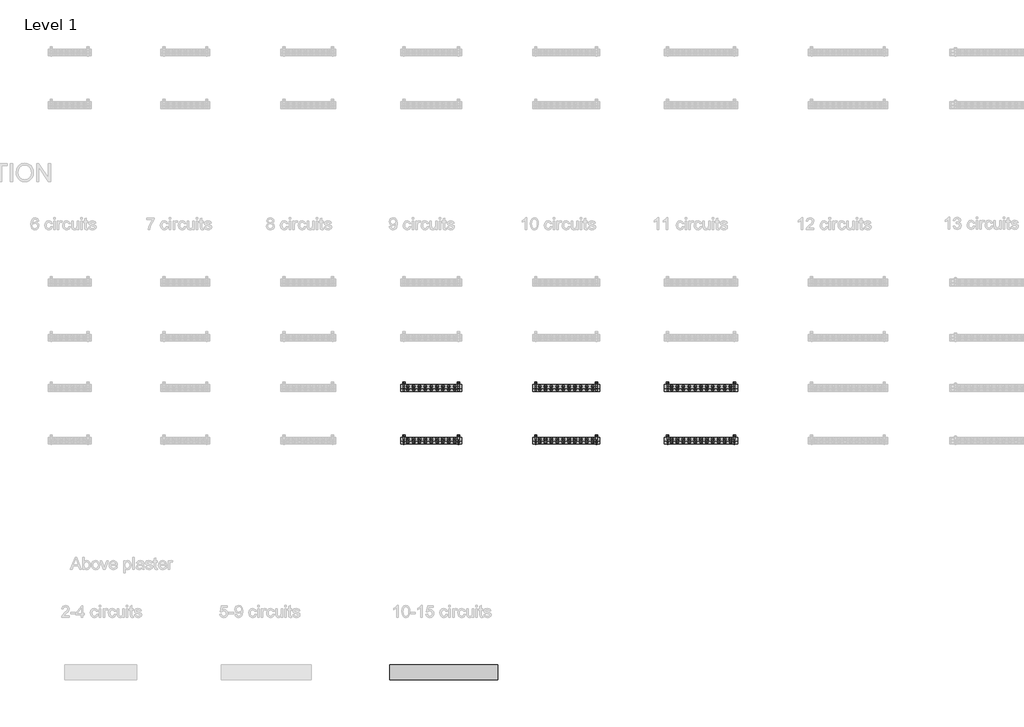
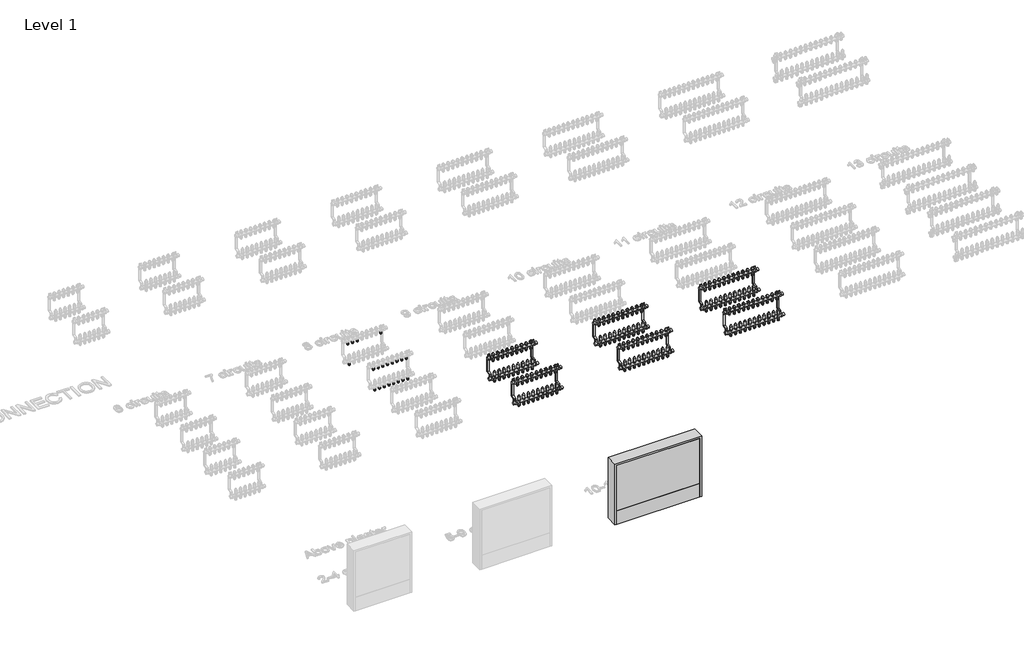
# One storey, part 3 of 23: 140 pipe fittings, 7 valves.
"""IFC4 building model written with IfcOpenShell, lengths in millimetres."""

from ifc_helpers import new_model, si_unit, origin, place, context, project, spatial, transform, mapped, element, save
from components import pipe_fitting_03c6499f, valve_f094e97b, valve_0359cbb0, valve_3285f891, valve_bdae45cc, valve_7e3f3941, valve_882e19a6, valve_5647343c, valve_f26d3ca9, valve_25ad0012, valve_d922645e

model = new_model("IFC4")

# Units and contexts
model_context = context("Model", 3, world=origin())
ifc_project = project(units=[si_unit("LENGTHUNIT", "METRE", prefix="MILLI")], contexts=[model_context])

# Site, building, storey
site = spatial("IfcSite", under=ifc_project)
building = spatial("IfcBuilding", under=site)
storey = spatial("IfcBuildingStorey", under=building, Name="Level 1", Elevation=0.0)

# Pipe fittings
placement = place(None, origin())
pipe_fitting_shape = pipe_fitting_03c6499f(model_context)
element("IfcPipeFitting", 1, ObjectType="Euroconus screwing for multilayer pipes - Manifold FT : Euroconus screwing for multilayer pipes - Manifold FT", at=placement, inside=storey, context=model_context, shape_type="MappedRepresentation", body=[
    mapped(pipe_fitting_shape, transform((7330.6939719, -1139.6959314, 272.88733), x_axis=(0.0, 0.0, -1.0), y_axis=(0.0, 1.0000000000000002, 0.0), z_axis=(1.0000000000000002, 0.0, 0.0))),
])
element("IfcPipeFitting", 2, ObjectType="Euroconus screwing for multilayer pipes - Manifold FT : Euroconus screwing for multilayer pipes - Manifold FT", at=placement, inside=storey, context=model_context, shape_type="MappedRepresentation", body=[
    mapped(pipe_fitting_shape, transform((7281.836829, -1139.6959314, 272.88733), x_axis=(0.0, 0.0, -1.0), y_axis=(0.0, 1.0000000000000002, 0.0), z_axis=(1.0000000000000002, 0.0, 0.0))),
])
element("IfcPipeFitting", 3, ObjectType="Euroconus screwing for multilayer pipes - Manifold FT : Euroconus screwing for multilayer pipes - Manifold FT", at=placement, inside=storey, context=model_context, shape_type="MappedRepresentation", body=[
    mapped(pipe_fitting_shape, transform((7574.9796862, -1139.6959314, 272.88733), x_axis=(0.0, 0.0, -1.0), y_axis=(0.0, 1.0000000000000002, 0.0), z_axis=(1.0000000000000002, 0.0, 0.0))),
])
element("IfcPipeFitting", 4, ObjectType="Euroconus screwing for multilayer pipes - Manifold FT : Euroconus screwing for multilayer pipes - Manifold FT", at=placement, inside=storey, context=model_context, shape_type="MappedRepresentation", body=[
    mapped(pipe_fitting_shape, transform((7232.9796862, -1164.6959314, 62.88733), x_axis=(0.0, 0.0, -1.0), y_axis=(0.0, 1.0000000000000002, 0.0), z_axis=(1.0000000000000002, 0.0, 0.0))),
])
element("IfcPipeFitting", 5, ObjectType="Euroconus screwing for multilayer pipes - Manifold FT : Euroconus screwing for multilayer pipes - Manifold FT", at=placement, inside=storey, context=model_context, shape_type="MappedRepresentation", body=[
    mapped(pipe_fitting_shape, transform((7232.9796862, -1139.6959314, 272.88733), x_axis=(0.0, 0.0, -1.0), y_axis=(0.0, 1.0000000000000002, 0.0), z_axis=(1.0000000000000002, 0.0, 0.0))),
])
element("IfcPipeFitting", 6, ObjectType="Euroconus screwing for multilayer pipes - Manifold FT : Euroconus screwing for multilayer pipes - Manifold FT", at=placement, inside=storey, context=model_context, shape_type="MappedRepresentation", body=[
    mapped(pipe_fitting_shape, transform((7526.1225433, -1624.6959314, 62.88733), x_axis=(0.0, 0.0, -1.0), y_axis=(0.0, 1.0000000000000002, 0.0), z_axis=(1.0000000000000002, 0.0, 0.0))),
])
element("IfcPipeFitting", 7, ObjectType="Euroconus screwing for multilayer pipes - Manifold FT : Euroconus screwing for multilayer pipes - Manifold FT", at=placement, inside=storey, context=model_context, shape_type="MappedRepresentation", body=[
    mapped(pipe_fitting_shape, transform((7477.2654004, -1624.6959314, 62.88733), x_axis=(0.0, 0.0, -1.0), y_axis=(0.0, 1.0000000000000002, 0.0), z_axis=(1.0000000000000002, 0.0, 0.0))),
])
element("IfcPipeFitting", 8, ObjectType="Euroconus screwing for multilayer pipes - Manifold FT : Euroconus screwing for multilayer pipes - Manifold FT", at=placement, inside=storey, context=model_context, shape_type="MappedRepresentation", body=[
    mapped(pipe_fitting_shape, transform((7428.4082576, -1624.6959314, 62.88733), x_axis=(0.0, 0.0, -1.0), y_axis=(0.0, 1.0000000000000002, 0.0), z_axis=(1.0000000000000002, 0.0, 0.0))),
])
element("IfcPipeFitting", 9, ObjectType="Euroconus screwing for multilayer pipes - Manifold FT : Euroconus screwing for multilayer pipes - Manifold FT", at=placement, inside=storey, context=model_context, shape_type="MappedRepresentation", body=[
    mapped(pipe_fitting_shape, transform((7379.5511147, -1624.6959314, 62.88733), x_axis=(0.0, 0.0, -1.0), y_axis=(0.0, 1.0000000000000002, 0.0), z_axis=(1.0000000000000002, 0.0, 0.0))),
])
element("IfcPipeFitting", 10, ObjectType="Euroconus screwing for multilayer pipes - Manifold FT : Euroconus screwing for multilayer pipes - Manifold FT", at=placement, inside=storey, context=model_context, shape_type="MappedRepresentation", body=[
    mapped(pipe_fitting_shape, transform((7330.6939719, -1624.6959314, 62.88733), x_axis=(0.0, 0.0, -1.0), y_axis=(0.0, 1.0000000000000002, 0.0), z_axis=(1.0000000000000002, 0.0, 0.0))),
])
element("IfcPipeFitting", 11, ObjectType="Euroconus screwing for multilayer pipes - Manifold FT : Euroconus screwing for multilayer pipes - Manifold FT", at=placement, inside=storey, context=model_context, shape_type="MappedRepresentation", body=[
    mapped(pipe_fitting_shape, transform((7281.836829, -1624.6959314, 62.88733), x_axis=(0.0, 0.0, -1.0), y_axis=(0.0, 1.0000000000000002, 0.0), z_axis=(1.0000000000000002, 0.0, 0.0))),
])
element("IfcPipeFitting", 12, ObjectType="Euroconus screwing for multilayer pipes - Manifold FT : Euroconus screwing for multilayer pipes - Manifold FT", at=placement, inside=storey, context=model_context, shape_type="MappedRepresentation", body=[
    mapped(pipe_fitting_shape, transform((7574.9796862, -1624.6959314, 62.88733), x_axis=(0.0, 0.0, -1.0), y_axis=(0.0, 1.0000000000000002, 0.0), z_axis=(1.0000000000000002, 0.0, 0.0))),
])
element("IfcPipeFitting", 13, ObjectType="Euroconus screwing for multilayer pipes - Manifold FT : Euroconus screwing for multilayer pipes - Manifold FT", at=placement, inside=storey, context=model_context, shape_type="MappedRepresentation", body=[
    mapped(pipe_fitting_shape, transform((7526.1225433, -1599.6959314, 272.88733), x_axis=(0.0, 0.0, -1.0), y_axis=(0.0, 1.0000000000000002, 0.0), z_axis=(1.0000000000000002, 0.0, 0.0))),
])
element("IfcPipeFitting", 14, ObjectType="Euroconus screwing for multilayer pipes - Manifold FT : Euroconus screwing for multilayer pipes - Manifold FT", at=placement, inside=storey, context=model_context, shape_type="MappedRepresentation", body=[
    mapped(pipe_fitting_shape, transform((7477.2654004, -1599.6959314, 272.88733), x_axis=(0.0, 0.0, -1.0), y_axis=(0.0, 1.0000000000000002, 0.0), z_axis=(1.0000000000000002, 0.0, 0.0))),
])
element("IfcPipeFitting", 15, ObjectType="Euroconus screwing for multilayer pipes - Manifold FT : Euroconus screwing for multilayer pipes - Manifold FT", at=placement, inside=storey, context=model_context, shape_type="MappedRepresentation", body=[
    mapped(pipe_fitting_shape, transform((7428.4082576, -1599.6959314, 272.88733), x_axis=(0.0, 0.0, -1.0), y_axis=(0.0, 1.0000000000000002, 0.0), z_axis=(1.0000000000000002, 0.0, 0.0))),
])
element("IfcPipeFitting", 16, ObjectType="Euroconus screwing for multilayer pipes - Manifold FT : Euroconus screwing for multilayer pipes - Manifold FT", at=placement, inside=storey, context=model_context, shape_type="MappedRepresentation", body=[
    mapped(pipe_fitting_shape, transform((7379.5511147, -1599.6959314, 272.88733), x_axis=(0.0, 0.0, -1.0), y_axis=(0.0, 1.0000000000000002, 0.0), z_axis=(1.0000000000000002, 0.0, 0.0))),
])
element("IfcPipeFitting", 17, ObjectType="Euroconus screwing for multilayer pipes - Manifold FT : Euroconus screwing for multilayer pipes - Manifold FT", at=placement, inside=storey, context=model_context, shape_type="MappedRepresentation", body=[
    mapped(pipe_fitting_shape, transform((7330.6939719, -1599.6959314, 272.88733), x_axis=(0.0, 0.0, -1.0), y_axis=(0.0, 1.0000000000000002, 0.0), z_axis=(1.0000000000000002, 0.0, 0.0))),
])
element("IfcPipeFitting", 18, ObjectType="Euroconus screwing for multilayer pipes - Manifold FT : Euroconus screwing for multilayer pipes - Manifold FT", at=placement, inside=storey, context=model_context, shape_type="MappedRepresentation", body=[
    mapped(pipe_fitting_shape, transform((7281.836829, -1599.6959314, 272.88733), x_axis=(0.0, 0.0, -1.0), y_axis=(0.0, 1.0000000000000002, 0.0), z_axis=(1.0000000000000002, 0.0, 0.0))),
])
element("IfcPipeFitting", 19, ObjectType="Euroconus screwing for multilayer pipes - Manifold FT : Euroconus screwing for multilayer pipes - Manifold FT", at=placement, inside=storey, context=model_context, shape_type="MappedRepresentation", body=[
    mapped(pipe_fitting_shape, transform((7574.9796862, -1599.6959314, 272.88733), x_axis=(0.0, 0.0, -1.0), y_axis=(0.0, 1.0000000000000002, 0.0), z_axis=(1.0000000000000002, 0.0, 0.0))),
])
element("IfcPipeFitting", 20, ObjectType="Euroconus screwing for multilayer pipes - Manifold FT : Euroconus screwing for multilayer pipes - Manifold FT", at=placement, inside=storey, context=model_context, shape_type="MappedRepresentation", body=[
    mapped(pipe_fitting_shape, transform((7232.9796862, -1624.6959314, 62.88733), x_axis=(0.0, 0.0, -1.0), y_axis=(0.0, 1.0000000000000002, 0.0), z_axis=(1.0000000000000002, 0.0, 0.0))),
])
element("IfcPipeFitting", 21, ObjectType="Euroconus screwing for multilayer pipes - Manifold FT : Euroconus screwing for multilayer pipes - Manifold FT", at=placement, inside=storey, context=model_context, shape_type="MappedRepresentation", body=[
    mapped(pipe_fitting_shape, transform((7232.9796862, -1599.6959314, 272.88733), x_axis=(0.0, 0.0, -1.0), y_axis=(0.0, 1.0000000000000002, 0.0), z_axis=(1.0000000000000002, 0.0, 0.0))),
])
element("IfcPipeFitting", 22, ObjectType="Euroconus screwing for multilayer pipes - Manifold FT : Euroconus screwing for multilayer pipes - Manifold FT", at=placement, inside=storey, context=model_context, shape_type="MappedRepresentation", body=[
    mapped(pipe_fitting_shape, transform((8575.9796862, -2044.6959314, 62.88733), x_axis=(0.0, 0.0, -1.0), y_axis=(0.0, 1.0000000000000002, 0.0), z_axis=(1.0000000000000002, 0.0, 0.0))),
])
element("IfcPipeFitting", 23, ObjectType="Euroconus screwing for multilayer pipes - Manifold FT : Euroconus screwing for multilayer pipes - Manifold FT", at=placement, inside=storey, context=model_context, shape_type="MappedRepresentation", body=[
    mapped(pipe_fitting_shape, transform((8526.9796862, -2044.6959314, 62.88733), x_axis=(0.0, 0.0, -1.0), y_axis=(0.0, 1.0000000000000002, 0.0), z_axis=(1.0000000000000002, 0.0, 0.0))),
])
element("IfcPipeFitting", 24, ObjectType="Euroconus screwing for multilayer pipes - Manifold FT : Euroconus screwing for multilayer pipes - Manifold FT", at=placement, inside=storey, context=model_context, shape_type="MappedRepresentation", body=[
    mapped(pipe_fitting_shape, transform((8477.9796862, -2044.6959314, 62.88733), x_axis=(0.0, 0.0, -1.0), y_axis=(0.0, 1.0000000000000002, 0.0), z_axis=(1.0000000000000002, 0.0, 0.0))),
])
element("IfcPipeFitting", 25, ObjectType="Euroconus screwing for multilayer pipes - Manifold FT : Euroconus screwing for multilayer pipes - Manifold FT", at=placement, inside=storey, context=model_context, shape_type="MappedRepresentation", body=[
    mapped(pipe_fitting_shape, transform((8428.9796862, -2044.6959314, 62.88733), x_axis=(0.0, 0.0, -1.0), y_axis=(0.0, 1.0000000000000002, 0.0), z_axis=(1.0000000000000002, 0.0, 0.0))),
])
element("IfcPipeFitting", 26, ObjectType="Euroconus screwing for multilayer pipes - Manifold FT : Euroconus screwing for multilayer pipes - Manifold FT", at=placement, inside=storey, context=model_context, shape_type="MappedRepresentation", body=[
    mapped(pipe_fitting_shape, transform((8379.9796862, -2044.6959314, 62.88733), x_axis=(0.0, 0.0, -1.0), y_axis=(0.0, 1.0000000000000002, 0.0), z_axis=(1.0000000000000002, 0.0, 0.0))),
])
element("IfcPipeFitting", 27, ObjectType="Euroconus screwing for multilayer pipes - Manifold FT : Euroconus screwing for multilayer pipes - Manifold FT", at=placement, inside=storey, context=model_context, shape_type="MappedRepresentation", body=[
    mapped(pipe_fitting_shape, transform((8330.9796862, -2044.6959314, 62.88733), x_axis=(0.0, 0.0, -1.0), y_axis=(0.0, 1.0000000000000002, 0.0), z_axis=(1.0000000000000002, 0.0, 0.0))),
])
element("IfcPipeFitting", 28, ObjectType="Euroconus screwing for multilayer pipes - Manifold FT : Euroconus screwing for multilayer pipes - Manifold FT", at=placement, inside=storey, context=model_context, shape_type="MappedRepresentation", body=[
    mapped(pipe_fitting_shape, transform((8281.9796862, -2044.6959314, 62.88733), x_axis=(0.0, 0.0, -1.0), y_axis=(0.0, 1.0000000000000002, 0.0), z_axis=(1.0000000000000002, 0.0, 0.0))),
])
element("IfcPipeFitting", 29, ObjectType="Euroconus screwing for multilayer pipes - Manifold FT : Euroconus screwing for multilayer pipes - Manifold FT", at=placement, inside=storey, context=model_context, shape_type="MappedRepresentation", body=[
    mapped(pipe_fitting_shape, transform((8624.9796862, -2044.6959314, 62.88733), x_axis=(0.0, 0.0, -1.0), y_axis=(0.0, 1.0000000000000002, 0.0), z_axis=(1.0000000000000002, 0.0, 0.0))),
])
element("IfcPipeFitting", 30, ObjectType="Euroconus screwing for multilayer pipes - Manifold FT : Euroconus screwing for multilayer pipes - Manifold FT", at=placement, inside=storey, context=model_context, shape_type="MappedRepresentation", body=[
    mapped(pipe_fitting_shape, transform((8575.9796862, -2019.6959314, 272.88733), x_axis=(0.0, 0.0, -1.0), y_axis=(0.0, 1.0000000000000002, 0.0), z_axis=(1.0000000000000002, 0.0, 0.0))),
])
element("IfcPipeFitting", 31, ObjectType="Euroconus screwing for multilayer pipes - Manifold FT : Euroconus screwing for multilayer pipes - Manifold FT", at=placement, inside=storey, context=model_context, shape_type="MappedRepresentation", body=[
    mapped(pipe_fitting_shape, transform((8526.9796862, -2019.6959314, 272.88733), x_axis=(0.0, 0.0, -1.0), y_axis=(0.0, 1.0000000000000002, 0.0), z_axis=(1.0000000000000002, 0.0, 0.0))),
])
element("IfcPipeFitting", 32, ObjectType="Euroconus screwing for multilayer pipes - Manifold FT : Euroconus screwing for multilayer pipes - Manifold FT", at=placement, inside=storey, context=model_context, shape_type="MappedRepresentation", body=[
    mapped(pipe_fitting_shape, transform((8477.9796862, -2019.6959314, 272.88733), x_axis=(0.0, 0.0, -1.0), y_axis=(0.0, 1.0000000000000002, 0.0), z_axis=(1.0000000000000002, 0.0, 0.0))),
])
element("IfcPipeFitting", 33, ObjectType="Euroconus screwing for multilayer pipes - Manifold FT : Euroconus screwing for multilayer pipes - Manifold FT", at=placement, inside=storey, context=model_context, shape_type="MappedRepresentation", body=[
    mapped(pipe_fitting_shape, transform((8428.9796862, -2019.6959314, 272.88733), x_axis=(0.0, 0.0, -1.0), y_axis=(0.0, 1.0000000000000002, 0.0), z_axis=(1.0000000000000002, 0.0, 0.0))),
])
element("IfcPipeFitting", 34, ObjectType="Euroconus screwing for multilayer pipes - Manifold FT : Euroconus screwing for multilayer pipes - Manifold FT", at=placement, inside=storey, context=model_context, shape_type="MappedRepresentation", body=[
    mapped(pipe_fitting_shape, transform((8379.9796862, -2019.6959314, 272.88733), x_axis=(0.0, 0.0, -1.0), y_axis=(0.0, 1.0000000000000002, 0.0), z_axis=(1.0000000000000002, 0.0, 0.0))),
])
element("IfcPipeFitting", 35, ObjectType="Euroconus screwing for multilayer pipes - Manifold FT : Euroconus screwing for multilayer pipes - Manifold FT", at=placement, inside=storey, context=model_context, shape_type="MappedRepresentation", body=[
    mapped(pipe_fitting_shape, transform((8330.9796862, -2019.6959314, 272.88733), x_axis=(0.0, 0.0, -1.0), y_axis=(0.0, 1.0000000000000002, 0.0), z_axis=(1.0000000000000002, 0.0, 0.0))),
])
element("IfcPipeFitting", 36, ObjectType="Euroconus screwing for multilayer pipes - Manifold FT : Euroconus screwing for multilayer pipes - Manifold FT", at=placement, inside=storey, context=model_context, shape_type="MappedRepresentation", body=[
    mapped(pipe_fitting_shape, transform((8281.9796862, -2019.6959314, 272.88733), x_axis=(0.0, 0.0, -1.0), y_axis=(0.0, 1.0000000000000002, 0.0), z_axis=(1.0000000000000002, 0.0, 0.0))),
])
element("IfcPipeFitting", 37, ObjectType="Euroconus screwing for multilayer pipes - Manifold FT : Euroconus screwing for multilayer pipes - Manifold FT", at=placement, inside=storey, context=model_context, shape_type="MappedRepresentation", body=[
    mapped(pipe_fitting_shape, transform((8624.9796862, -2019.6959314, 272.88733), x_axis=(0.0, 0.0, -1.0), y_axis=(0.0, 1.0000000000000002, 0.0), z_axis=(1.0000000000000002, 0.0, 0.0))),
])
element("IfcPipeFitting", 38, ObjectType="Euroconus screwing for multilayer pipes - Manifold FT : Euroconus screwing for multilayer pipes - Manifold FT", at=placement, inside=storey, context=model_context, shape_type="MappedRepresentation", body=[
    mapped(pipe_fitting_shape, transform((8232.9796862, -2044.6959314, 62.88733), x_axis=(0.0, 0.0, -1.0), y_axis=(0.0, 1.0000000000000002, 0.0), z_axis=(1.0000000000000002, 0.0, 0.0))),
])
element("IfcPipeFitting", 39, ObjectType="Euroconus screwing for multilayer pipes - Manifold FT : Euroconus screwing for multilayer pipes - Manifold FT", at=placement, inside=storey, context=model_context, shape_type="MappedRepresentation", body=[
    mapped(pipe_fitting_shape, transform((8232.9796862, -2019.6959314, 272.88733), x_axis=(0.0, 0.0, -1.0), y_axis=(0.0, 1.0000000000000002, 0.0), z_axis=(1.0000000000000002, 0.0, 0.0))),
])
element("IfcPipeFitting", 40, ObjectType="Euroconus screwing for multilayer pipes - Manifold FT : Euroconus screwing for multilayer pipes - Manifold FT", at=placement, inside=storey, context=model_context, shape_type="MappedRepresentation", body=[
    mapped(pipe_fitting_shape, transform((9725.8685751, -2044.6959314, 62.88733), x_axis=(0.0, 0.0, -1.0), y_axis=(0.0, 1.0000000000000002, 0.0), z_axis=(1.0000000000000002, 0.0, 0.0))),
])
element("IfcPipeFitting", 41, ObjectType="Euroconus screwing for multilayer pipes - Manifold FT : Euroconus screwing for multilayer pipes - Manifold FT", at=placement, inside=storey, context=model_context, shape_type="MappedRepresentation", body=[
    mapped(pipe_fitting_shape, transform((9676.7574639, -2044.6959314, 62.88733), x_axis=(0.0, 0.0, -1.0), y_axis=(0.0, 1.0000000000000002, 0.0), z_axis=(1.0000000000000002, 0.0, 0.0))),
])
element("IfcPipeFitting", 42, ObjectType="Euroconus screwing for multilayer pipes - Manifold FT : Euroconus screwing for multilayer pipes - Manifold FT", at=placement, inside=storey, context=model_context, shape_type="MappedRepresentation", body=[
    mapped(pipe_fitting_shape, transform((9627.6463528, -2044.6959314, 62.88733), x_axis=(0.0, 0.0, -1.0), y_axis=(0.0, 1.0000000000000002, 0.0), z_axis=(1.0000000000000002, 0.0, 0.0))),
])
element("IfcPipeFitting", 43, ObjectType="Euroconus screwing for multilayer pipes - Manifold FT : Euroconus screwing for multilayer pipes - Manifold FT", at=placement, inside=storey, context=model_context, shape_type="MappedRepresentation", body=[
    mapped(pipe_fitting_shape, transform((9578.5352417, -2044.6959314, 62.88733), x_axis=(0.0, 0.0, -1.0), y_axis=(0.0, 1.0000000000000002, 0.0), z_axis=(1.0000000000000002, 0.0, 0.0))),
])
element("IfcPipeFitting", 44, ObjectType="Euroconus screwing for multilayer pipes - Manifold FT : Euroconus screwing for multilayer pipes - Manifold FT", at=placement, inside=storey, context=model_context, shape_type="MappedRepresentation", body=[
    mapped(pipe_fitting_shape, transform((9529.4241306, -2044.6959314, 62.88733), x_axis=(0.0, 0.0, -1.0), y_axis=(0.0, 1.0000000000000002, 0.0), z_axis=(1.0000000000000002, 0.0, 0.0))),
])
element("IfcPipeFitting", 45, ObjectType="Euroconus screwing for multilayer pipes - Manifold FT : Euroconus screwing for multilayer pipes - Manifold FT", at=placement, inside=storey, context=model_context, shape_type="MappedRepresentation", body=[
    mapped(pipe_fitting_shape, transform((9480.3130195, -2044.6959314, 62.88733), x_axis=(0.0, 0.0, -1.0), y_axis=(0.0, 1.0000000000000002, 0.0), z_axis=(1.0000000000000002, 0.0, 0.0))),
])
element("IfcPipeFitting", 46, ObjectType="Euroconus screwing for multilayer pipes - Manifold FT : Euroconus screwing for multilayer pipes - Manifold FT", at=placement, inside=storey, context=model_context, shape_type="MappedRepresentation", body=[
    mapped(pipe_fitting_shape, transform((9431.2019084, -2044.6959314, 62.88733), x_axis=(0.0, 0.0, -1.0), y_axis=(0.0, 1.0000000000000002, 0.0), z_axis=(1.0000000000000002, 0.0, 0.0))),
])
element("IfcPipeFitting", 47, ObjectType="Euroconus screwing for multilayer pipes - Manifold FT : Euroconus screwing for multilayer pipes - Manifold FT", at=placement, inside=storey, context=model_context, shape_type="MappedRepresentation", body=[
    mapped(pipe_fitting_shape, transform((9382.0907973, -2044.6959314, 62.88733), x_axis=(0.0, 0.0, -1.0), y_axis=(0.0, 1.0000000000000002, 0.0), z_axis=(1.0000000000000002, 0.0, 0.0))),
])
element("IfcPipeFitting", 48, ObjectType="Euroconus screwing for multilayer pipes - Manifold FT : Euroconus screwing for multilayer pipes - Manifold FT", at=placement, inside=storey, context=model_context, shape_type="MappedRepresentation", body=[
    mapped(pipe_fitting_shape, transform((9774.9796862, -2044.6959314, 62.88733), x_axis=(0.0, 0.0, -1.0), y_axis=(0.0, 1.0000000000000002, 0.0), z_axis=(1.0000000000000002, 0.0, 0.0))),
])
element("IfcPipeFitting", 49, ObjectType="Euroconus screwing for multilayer pipes - Manifold FT : Euroconus screwing for multilayer pipes - Manifold FT", at=placement, inside=storey, context=model_context, shape_type="MappedRepresentation", body=[
    mapped(pipe_fitting_shape, transform((9725.8685751, -2019.6959314, 272.88733), x_axis=(0.0, 0.0, -1.0), y_axis=(0.0, 1.0000000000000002, 0.0), z_axis=(1.0000000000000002, 0.0, 0.0))),
])
element("IfcPipeFitting", 50, ObjectType="Euroconus screwing for multilayer pipes - Manifold FT : Euroconus screwing for multilayer pipes - Manifold FT", at=placement, inside=storey, context=model_context, shape_type="MappedRepresentation", body=[
    mapped(pipe_fitting_shape, transform((9676.7574639, -2019.6959314, 272.88733), x_axis=(0.0, 0.0, -1.0), y_axis=(0.0, 1.0000000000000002, 0.0), z_axis=(1.0000000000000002, 0.0, 0.0))),
])
element("IfcPipeFitting", 51, ObjectType="Euroconus screwing for multilayer pipes - Manifold FT : Euroconus screwing for multilayer pipes - Manifold FT", at=placement, inside=storey, context=model_context, shape_type="MappedRepresentation", body=[
    mapped(pipe_fitting_shape, transform((9627.6463528, -2019.6959314, 272.88733), x_axis=(0.0, 0.0, -1.0), y_axis=(0.0, 1.0000000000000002, 0.0), z_axis=(1.0000000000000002, 0.0, 0.0))),
])
element("IfcPipeFitting", 52, ObjectType="Euroconus screwing for multilayer pipes - Manifold FT : Euroconus screwing for multilayer pipes - Manifold FT", at=placement, inside=storey, context=model_context, shape_type="MappedRepresentation", body=[
    mapped(pipe_fitting_shape, transform((9578.5352417, -2019.6959314, 272.88733), x_axis=(0.0, 0.0, -1.0), y_axis=(0.0, 1.0000000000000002, 0.0), z_axis=(1.0000000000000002, 0.0, 0.0))),
])
element("IfcPipeFitting", 53, ObjectType="Euroconus screwing for multilayer pipes - Manifold FT : Euroconus screwing for multilayer pipes - Manifold FT", at=placement, inside=storey, context=model_context, shape_type="MappedRepresentation", body=[
    mapped(pipe_fitting_shape, transform((9529.4241306, -2019.6959314, 272.88733), x_axis=(0.0, 0.0, -1.0), y_axis=(0.0, 1.0000000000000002, 0.0), z_axis=(1.0000000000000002, 0.0, 0.0))),
])
element("IfcPipeFitting", 54, ObjectType="Euroconus screwing for multilayer pipes - Manifold FT : Euroconus screwing for multilayer pipes - Manifold FT", at=placement, inside=storey, context=model_context, shape_type="MappedRepresentation", body=[
    mapped(pipe_fitting_shape, transform((9480.3130195, -2019.6959314, 272.88733), x_axis=(0.0, 0.0, -1.0), y_axis=(0.0, 1.0000000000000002, 0.0), z_axis=(1.0000000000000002, 0.0, 0.0))),
])
element("IfcPipeFitting", 55, ObjectType="Euroconus screwing for multilayer pipes - Manifold FT : Euroconus screwing for multilayer pipes - Manifold FT", at=placement, inside=storey, context=model_context, shape_type="MappedRepresentation", body=[
    mapped(pipe_fitting_shape, transform((9431.2019084, -2019.6959314, 272.88733), x_axis=(0.0, 0.0, -1.0), y_axis=(0.0, 1.0000000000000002, 0.0), z_axis=(1.0000000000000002, 0.0, 0.0))),
])
element("IfcPipeFitting", 56, ObjectType="Euroconus screwing for multilayer pipes - Manifold FT : Euroconus screwing for multilayer pipes - Manifold FT", at=placement, inside=storey, context=model_context, shape_type="MappedRepresentation", body=[
    mapped(pipe_fitting_shape, transform((9382.0907973, -2019.6959314, 272.88733), x_axis=(0.0, 0.0, -1.0), y_axis=(0.0, 1.0000000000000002, 0.0), z_axis=(1.0000000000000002, 0.0, 0.0))),
])
element("IfcPipeFitting", 57, ObjectType="Euroconus screwing for multilayer pipes - Manifold FT : Euroconus screwing for multilayer pipes - Manifold FT", at=placement, inside=storey, context=model_context, shape_type="MappedRepresentation", body=[
    mapped(pipe_fitting_shape, transform((9774.9796862, -2019.6959314, 272.88733), x_axis=(0.0, 0.0, -1.0), y_axis=(0.0, 1.0000000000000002, 0.0), z_axis=(1.0000000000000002, 0.0, 0.0))),
])
element("IfcPipeFitting", 58, ObjectType="Euroconus screwing for multilayer pipes - Manifold FT : Euroconus screwing for multilayer pipes - Manifold FT", at=placement, inside=storey, context=model_context, shape_type="MappedRepresentation", body=[
    mapped(pipe_fitting_shape, transform((9332.9796862, -2044.6959314, 62.88733), x_axis=(0.0, 0.0, -1.0), y_axis=(0.0, 1.0000000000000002, 0.0), z_axis=(1.0000000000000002, 0.0, 0.0))),
])
element("IfcPipeFitting", 59, ObjectType="Euroconus screwing for multilayer pipes - Manifold FT : Euroconus screwing for multilayer pipes - Manifold FT", at=placement, inside=storey, context=model_context, shape_type="MappedRepresentation", body=[
    mapped(pipe_fitting_shape, transform((9332.9796862, -2019.6959314, 272.88733), x_axis=(0.0, 0.0, -1.0), y_axis=(0.0, 1.0000000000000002, 0.0), z_axis=(1.0000000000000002, 0.0, 0.0))),
])
element("IfcPipeFitting", 60, ObjectType="Euroconus screwing for multilayer pipes - Manifold FT : Euroconus screwing for multilayer pipes - Manifold FT", at=placement, inside=storey, context=model_context, shape_type="MappedRepresentation", body=[
    mapped(pipe_fitting_shape, transform((10875.7796862, -2044.6959314, 62.88733), x_axis=(0.0, 0.0, -1.0), y_axis=(0.0, 1.0000000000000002, 0.0), z_axis=(1.0000000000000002, 0.0, 0.0))),
])
element("IfcPipeFitting", 61, ObjectType="Euroconus screwing for multilayer pipes - Manifold FT : Euroconus screwing for multilayer pipes - Manifold FT", at=placement, inside=storey, context=model_context, shape_type="MappedRepresentation", body=[
    mapped(pipe_fitting_shape, transform((10826.5796862, -2044.6959314, 62.88733), x_axis=(0.0, 0.0, -1.0), y_axis=(0.0, 1.0000000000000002, 0.0), z_axis=(1.0000000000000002, 0.0, 0.0))),
])
element("IfcPipeFitting", 62, ObjectType="Euroconus screwing for multilayer pipes - Manifold FT : Euroconus screwing for multilayer pipes - Manifold FT", at=placement, inside=storey, context=model_context, shape_type="MappedRepresentation", body=[
    mapped(pipe_fitting_shape, transform((10777.3796862, -2044.6959314, 62.88733), x_axis=(0.0, 0.0, -1.0), y_axis=(0.0, 1.0000000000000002, 0.0), z_axis=(1.0000000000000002, 0.0, 0.0))),
])
element("IfcPipeFitting", 63, ObjectType="Euroconus screwing for multilayer pipes - Manifold FT : Euroconus screwing for multilayer pipes - Manifold FT", at=placement, inside=storey, context=model_context, shape_type="MappedRepresentation", body=[
    mapped(pipe_fitting_shape, transform((10728.1796862, -2044.6959314, 62.88733), x_axis=(0.0, 0.0, -1.0), y_axis=(0.0, 1.0000000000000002, 0.0), z_axis=(1.0000000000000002, 0.0, 0.0))),
])
element("IfcPipeFitting", 64, ObjectType="Euroconus screwing for multilayer pipes - Manifold FT : Euroconus screwing for multilayer pipes - Manifold FT", at=placement, inside=storey, context=model_context, shape_type="MappedRepresentation", body=[
    mapped(pipe_fitting_shape, transform((10678.9796862, -2044.6959314, 62.88733), x_axis=(0.0, 0.0, -1.0), y_axis=(0.0, 1.0000000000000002, 0.0), z_axis=(1.0000000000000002, 0.0, 0.0))),
])
element("IfcPipeFitting", 65, ObjectType="Euroconus screwing for multilayer pipes - Manifold FT : Euroconus screwing for multilayer pipes - Manifold FT", at=placement, inside=storey, context=model_context, shape_type="MappedRepresentation", body=[
    mapped(pipe_fitting_shape, transform((10629.7796862, -2044.6959314, 62.88733), x_axis=(0.0, 0.0, -1.0), y_axis=(0.0, 1.0000000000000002, 0.0), z_axis=(1.0000000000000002, 0.0, 0.0))),
])
element("IfcPipeFitting", 66, ObjectType="Euroconus screwing for multilayer pipes - Manifold FT : Euroconus screwing for multilayer pipes - Manifold FT", at=placement, inside=storey, context=model_context, shape_type="MappedRepresentation", body=[
    mapped(pipe_fitting_shape, transform((10580.5796862, -2044.6959314, 62.88733), x_axis=(0.0, 0.0, -1.0), y_axis=(0.0, 1.0000000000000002, 0.0), z_axis=(1.0000000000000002, 0.0, 0.0))),
])
element("IfcPipeFitting", 67, ObjectType="Euroconus screwing for multilayer pipes - Manifold FT : Euroconus screwing for multilayer pipes - Manifold FT", at=placement, inside=storey, context=model_context, shape_type="MappedRepresentation", body=[
    mapped(pipe_fitting_shape, transform((10531.3796862, -2044.6959314, 62.88733), x_axis=(0.0, 0.0, -1.0), y_axis=(0.0, 1.0000000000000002, 0.0), z_axis=(1.0000000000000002, 0.0, 0.0))),
])
element("IfcPipeFitting", 68, ObjectType="Euroconus screwing for multilayer pipes - Manifold FT : Euroconus screwing for multilayer pipes - Manifold FT", at=placement, inside=storey, context=model_context, shape_type="MappedRepresentation", body=[
    mapped(pipe_fitting_shape, transform((10482.1796862, -2044.6959314, 62.88733), x_axis=(0.0, 0.0, -1.0), y_axis=(0.0, 1.0000000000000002, 0.0), z_axis=(1.0000000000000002, 0.0, 0.0))),
])
element("IfcPipeFitting", 69, ObjectType="Euroconus screwing for multilayer pipes - Manifold FT : Euroconus screwing for multilayer pipes - Manifold FT", at=placement, inside=storey, context=model_context, shape_type="MappedRepresentation", body=[
    mapped(pipe_fitting_shape, transform((10924.9796862, -2044.6959314, 62.88733), x_axis=(0.0, 0.0, -1.0), y_axis=(0.0, 1.0000000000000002, 0.0), z_axis=(1.0000000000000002, 0.0, 0.0))),
])
element("IfcPipeFitting", 70, ObjectType="Euroconus screwing for multilayer pipes - Manifold FT : Euroconus screwing for multilayer pipes - Manifold FT", at=placement, inside=storey, context=model_context, shape_type="MappedRepresentation", body=[
    mapped(pipe_fitting_shape, transform((10875.7796862, -2019.6959314, 272.88733), x_axis=(0.0, 0.0, -1.0), y_axis=(0.0, 1.0000000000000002, 0.0), z_axis=(1.0000000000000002, 0.0, 0.0))),
])
element("IfcPipeFitting", 71, ObjectType="Euroconus screwing for multilayer pipes - Manifold FT : Euroconus screwing for multilayer pipes - Manifold FT", at=placement, inside=storey, context=model_context, shape_type="MappedRepresentation", body=[
    mapped(pipe_fitting_shape, transform((10826.5796862, -2019.6959314, 272.88733), x_axis=(0.0, 0.0, -1.0), y_axis=(0.0, 1.0000000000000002, 0.0), z_axis=(1.0000000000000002, 0.0, 0.0))),
])
element("IfcPipeFitting", 72, ObjectType="Euroconus screwing for multilayer pipes - Manifold FT : Euroconus screwing for multilayer pipes - Manifold FT", at=placement, inside=storey, context=model_context, shape_type="MappedRepresentation", body=[
    mapped(pipe_fitting_shape, transform((10777.3796862, -2019.6959314, 272.88733), x_axis=(0.0, 0.0, -1.0), y_axis=(0.0, 1.0000000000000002, 0.0), z_axis=(1.0000000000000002, 0.0, 0.0))),
])
element("IfcPipeFitting", 73, ObjectType="Euroconus screwing for multilayer pipes - Manifold FT : Euroconus screwing for multilayer pipes - Manifold FT", at=placement, inside=storey, context=model_context, shape_type="MappedRepresentation", body=[
    mapped(pipe_fitting_shape, transform((10728.1796862, -2019.6959314, 272.88733), x_axis=(0.0, 0.0, -1.0), y_axis=(0.0, 1.0000000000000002, 0.0), z_axis=(1.0000000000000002, 0.0, 0.0))),
])
element("IfcPipeFitting", 74, ObjectType="Euroconus screwing for multilayer pipes - Manifold FT : Euroconus screwing for multilayer pipes - Manifold FT", at=placement, inside=storey, context=model_context, shape_type="MappedRepresentation", body=[
    mapped(pipe_fitting_shape, transform((10678.9796862, -2019.6959314, 272.88733), x_axis=(0.0, 0.0, -1.0), y_axis=(0.0, 1.0000000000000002, 0.0), z_axis=(1.0000000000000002, 0.0, 0.0))),
])
element("IfcPipeFitting", 75, ObjectType="Euroconus screwing for multilayer pipes - Manifold FT : Euroconus screwing for multilayer pipes - Manifold FT", at=placement, inside=storey, context=model_context, shape_type="MappedRepresentation", body=[
    mapped(pipe_fitting_shape, transform((10629.7796862, -2019.6959314, 272.88733), x_axis=(0.0, 0.0, -1.0), y_axis=(0.0, 1.0000000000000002, 0.0), z_axis=(1.0000000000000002, 0.0, 0.0))),
])
element("IfcPipeFitting", 76, ObjectType="Euroconus screwing for multilayer pipes - Manifold FT : Euroconus screwing for multilayer pipes - Manifold FT", at=placement, inside=storey, context=model_context, shape_type="MappedRepresentation", body=[
    mapped(pipe_fitting_shape, transform((10580.5796862, -2019.6959314, 272.88733), x_axis=(0.0, 0.0, -1.0), y_axis=(0.0, 1.0000000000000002, 0.0), z_axis=(1.0000000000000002, 0.0, 0.0))),
])
element("IfcPipeFitting", 77, ObjectType="Euroconus screwing for multilayer pipes - Manifold FT : Euroconus screwing for multilayer pipes - Manifold FT", at=placement, inside=storey, context=model_context, shape_type="MappedRepresentation", body=[
    mapped(pipe_fitting_shape, transform((10531.3796862, -2019.6959314, 272.88733), x_axis=(0.0, 0.0, -1.0), y_axis=(0.0, 1.0000000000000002, 0.0), z_axis=(1.0000000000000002, 0.0, 0.0))),
])
element("IfcPipeFitting", 78, ObjectType="Euroconus screwing for multilayer pipes - Manifold FT : Euroconus screwing for multilayer pipes - Manifold FT", at=placement, inside=storey, context=model_context, shape_type="MappedRepresentation", body=[
    mapped(pipe_fitting_shape, transform((10482.1796862, -2019.6959314, 272.88733), x_axis=(0.0, 0.0, -1.0), y_axis=(0.0, 1.0000000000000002, 0.0), z_axis=(1.0000000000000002, 0.0, 0.0))),
])
element("IfcPipeFitting", 79, ObjectType="Euroconus screwing for multilayer pipes - Manifold FT : Euroconus screwing for multilayer pipes - Manifold FT", at=placement, inside=storey, context=model_context, shape_type="MappedRepresentation", body=[
    mapped(pipe_fitting_shape, transform((10924.9796862, -2019.6959314, 272.88733), x_axis=(0.0, 0.0, -1.0), y_axis=(0.0, 1.0000000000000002, 0.0), z_axis=(1.0000000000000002, 0.0, 0.0))),
])
element("IfcPipeFitting", 80, ObjectType="Euroconus screwing for multilayer pipes - Manifold FT : Euroconus screwing for multilayer pipes - Manifold FT", at=placement, inside=storey, context=model_context, shape_type="MappedRepresentation", body=[
    mapped(pipe_fitting_shape, transform((10432.9796862, -2044.6959314, 62.88733), x_axis=(0.0, 0.0, -1.0), y_axis=(0.0, 1.0000000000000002, 0.0), z_axis=(1.0000000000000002, 0.0, 0.0))),
])
element("IfcPipeFitting", 81, ObjectType="Euroconus screwing for multilayer pipes - Manifold FT : Euroconus screwing for multilayer pipes - Manifold FT", at=placement, inside=storey, context=model_context, shape_type="MappedRepresentation", body=[
    mapped(pipe_fitting_shape, transform((10432.9796862, -2019.6959314, 272.88733), x_axis=(0.0, 0.0, -1.0), y_axis=(0.0, 1.0000000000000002, 0.0), z_axis=(1.0000000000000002, 0.0, 0.0))),
])
element("IfcPipeFitting", 82, ObjectType="Euroconus screwing for multilayer pipes - Manifold FT : Euroconus screwing for multilayer pipes - Manifold FT", at=placement, inside=storey, context=model_context, shape_type="MappedRepresentation", body=[
    mapped(pipe_fitting_shape, transform((8575.9796862, -2484.6959314, 62.88733), x_axis=(0.0, 0.0, -1.0), y_axis=(0.0, 1.0000000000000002, 0.0), z_axis=(1.0000000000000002, 0.0, 0.0))),
])
element("IfcPipeFitting", 83, ObjectType="Euroconus screwing for multilayer pipes - Manifold FT : Euroconus screwing for multilayer pipes - Manifold FT", at=placement, inside=storey, context=model_context, shape_type="MappedRepresentation", body=[
    mapped(pipe_fitting_shape, transform((8526.9796862, -2484.6959314, 62.88733), x_axis=(0.0, 0.0, -1.0), y_axis=(0.0, 1.0000000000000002, 0.0), z_axis=(1.0000000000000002, 0.0, 0.0))),
])
element("IfcPipeFitting", 84, ObjectType="Euroconus screwing for multilayer pipes - Manifold FT : Euroconus screwing for multilayer pipes - Manifold FT", at=placement, inside=storey, context=model_context, shape_type="MappedRepresentation", body=[
    mapped(pipe_fitting_shape, transform((8477.9796862, -2484.6959314, 62.88733), x_axis=(0.0, 0.0, -1.0), y_axis=(0.0, 1.0000000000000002, 0.0), z_axis=(1.0000000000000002, 0.0, 0.0))),
])
element("IfcPipeFitting", 85, ObjectType="Euroconus screwing for multilayer pipes - Manifold FT : Euroconus screwing for multilayer pipes - Manifold FT", at=placement, inside=storey, context=model_context, shape_type="MappedRepresentation", body=[
    mapped(pipe_fitting_shape, transform((8428.9796862, -2484.6959314, 62.88733), x_axis=(0.0, 0.0, -1.0), y_axis=(0.0, 1.0000000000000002, 0.0), z_axis=(1.0000000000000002, 0.0, 0.0))),
])
element("IfcPipeFitting", 86, ObjectType="Euroconus screwing for multilayer pipes - Manifold FT : Euroconus screwing for multilayer pipes - Manifold FT", at=placement, inside=storey, context=model_context, shape_type="MappedRepresentation", body=[
    mapped(pipe_fitting_shape, transform((8379.9796862, -2484.6959314, 62.88733), x_axis=(0.0, 0.0, -1.0), y_axis=(0.0, 1.0000000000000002, 0.0), z_axis=(1.0000000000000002, 0.0, 0.0))),
])
element("IfcPipeFitting", 87, ObjectType="Euroconus screwing for multilayer pipes - Manifold FT : Euroconus screwing for multilayer pipes - Manifold FT", at=placement, inside=storey, context=model_context, shape_type="MappedRepresentation", body=[
    mapped(pipe_fitting_shape, transform((8330.9796862, -2484.6959314, 62.88733), x_axis=(0.0, 0.0, -1.0), y_axis=(0.0, 1.0000000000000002, 0.0), z_axis=(1.0000000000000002, 0.0, 0.0))),
])
element("IfcPipeFitting", 88, ObjectType="Euroconus screwing for multilayer pipes - Manifold FT : Euroconus screwing for multilayer pipes - Manifold FT", at=placement, inside=storey, context=model_context, shape_type="MappedRepresentation", body=[
    mapped(pipe_fitting_shape, transform((8281.9796862, -2484.6959314, 62.88733), x_axis=(0.0, 0.0, -1.0), y_axis=(0.0, 1.0000000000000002, 0.0), z_axis=(1.0000000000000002, 0.0, 0.0))),
])
element("IfcPipeFitting", 89, ObjectType="Euroconus screwing for multilayer pipes - Manifold FT : Euroconus screwing for multilayer pipes - Manifold FT", at=placement, inside=storey, context=model_context, shape_type="MappedRepresentation", body=[
    mapped(pipe_fitting_shape, transform((8624.9796862, -2484.6959314, 62.88733), x_axis=(0.0, 0.0, -1.0), y_axis=(0.0, 1.0000000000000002, 0.0), z_axis=(1.0000000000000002, 0.0, 0.0))),
])
element("IfcPipeFitting", 90, ObjectType="Euroconus screwing for multilayer pipes - Manifold FT : Euroconus screwing for multilayer pipes - Manifold FT", at=placement, inside=storey, context=model_context, shape_type="MappedRepresentation", body=[
    mapped(pipe_fitting_shape, transform((8575.9796862, -2459.6959314, 272.88733), x_axis=(0.0, 0.0, -1.0), y_axis=(0.0, 1.0000000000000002, 0.0), z_axis=(1.0000000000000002, 0.0, 0.0))),
])
element("IfcPipeFitting", 91, ObjectType="Euroconus screwing for multilayer pipes - Manifold FT : Euroconus screwing for multilayer pipes - Manifold FT", at=placement, inside=storey, context=model_context, shape_type="MappedRepresentation", body=[
    mapped(pipe_fitting_shape, transform((8526.9796862, -2459.6959314, 272.88733), x_axis=(0.0, 0.0, -1.0), y_axis=(0.0, 1.0000000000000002, 0.0), z_axis=(1.0000000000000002, 0.0, 0.0))),
])
element("IfcPipeFitting", 92, ObjectType="Euroconus screwing for multilayer pipes - Manifold FT : Euroconus screwing for multilayer pipes - Manifold FT", at=placement, inside=storey, context=model_context, shape_type="MappedRepresentation", body=[
    mapped(pipe_fitting_shape, transform((8477.9796862, -2459.6959314, 272.88733), x_axis=(0.0, 0.0, -1.0), y_axis=(0.0, 1.0000000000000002, 0.0), z_axis=(1.0000000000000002, 0.0, 0.0))),
])
element("IfcPipeFitting", 93, ObjectType="Euroconus screwing for multilayer pipes - Manifold FT : Euroconus screwing for multilayer pipes - Manifold FT", at=placement, inside=storey, context=model_context, shape_type="MappedRepresentation", body=[
    mapped(pipe_fitting_shape, transform((8428.9796862, -2459.6959314, 272.88733), x_axis=(0.0, 0.0, -1.0), y_axis=(0.0, 1.0000000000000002, 0.0), z_axis=(1.0000000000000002, 0.0, 0.0))),
])
element("IfcPipeFitting", 94, ObjectType="Euroconus screwing for multilayer pipes - Manifold FT : Euroconus screwing for multilayer pipes - Manifold FT", at=placement, inside=storey, context=model_context, shape_type="MappedRepresentation", body=[
    mapped(pipe_fitting_shape, transform((8379.9796862, -2459.6959314, 272.88733), x_axis=(0.0, 0.0, -1.0), y_axis=(0.0, 1.0000000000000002, 0.0), z_axis=(1.0000000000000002, 0.0, 0.0))),
])
element("IfcPipeFitting", 95, ObjectType="Euroconus screwing for multilayer pipes - Manifold FT : Euroconus screwing for multilayer pipes - Manifold FT", at=placement, inside=storey, context=model_context, shape_type="MappedRepresentation", body=[
    mapped(pipe_fitting_shape, transform((8330.9796862, -2459.6959314, 272.88733), x_axis=(0.0, 0.0, -1.0), y_axis=(0.0, 1.0000000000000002, 0.0), z_axis=(1.0000000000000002, 0.0, 0.0))),
])
element("IfcPipeFitting", 96, ObjectType="Euroconus screwing for multilayer pipes - Manifold FT : Euroconus screwing for multilayer pipes - Manifold FT", at=placement, inside=storey, context=model_context, shape_type="MappedRepresentation", body=[
    mapped(pipe_fitting_shape, transform((8281.9796862, -2459.6959314, 272.88733), x_axis=(0.0, 0.0, -1.0), y_axis=(0.0, 1.0000000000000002, 0.0), z_axis=(1.0000000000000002, 0.0, 0.0))),
])
element("IfcPipeFitting", 97, ObjectType="Euroconus screwing for multilayer pipes - Manifold FT : Euroconus screwing for multilayer pipes - Manifold FT", at=placement, inside=storey, context=model_context, shape_type="MappedRepresentation", body=[
    mapped(pipe_fitting_shape, transform((8624.9796862, -2459.6959314, 272.88733), x_axis=(0.0, 0.0, -1.0), y_axis=(0.0, 1.0000000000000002, 0.0), z_axis=(1.0000000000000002, 0.0, 0.0))),
])
element("IfcPipeFitting", 98, ObjectType="Euroconus screwing for multilayer pipes - Manifold FT : Euroconus screwing for multilayer pipes - Manifold FT", at=placement, inside=storey, context=model_context, shape_type="MappedRepresentation", body=[
    mapped(pipe_fitting_shape, transform((8232.9796862, -2484.6959314, 62.88733), x_axis=(0.0, 0.0, -1.0), y_axis=(0.0, 1.0000000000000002, 0.0), z_axis=(1.0000000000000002, 0.0, 0.0))),
])
element("IfcPipeFitting", 99, ObjectType="Euroconus screwing for multilayer pipes - Manifold FT : Euroconus screwing for multilayer pipes - Manifold FT", at=placement, inside=storey, context=model_context, shape_type="MappedRepresentation", body=[
    mapped(pipe_fitting_shape, transform((8232.9796862, -2459.6959314, 272.88733), x_axis=(0.0, 0.0, -1.0), y_axis=(0.0, 1.0000000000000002, 0.0), z_axis=(1.0000000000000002, 0.0, 0.0))),
])
element("IfcPipeFitting", 100, ObjectType="Euroconus screwing for multilayer pipes - Manifold FT : Euroconus screwing for multilayer pipes - Manifold FT", at=placement, inside=storey, context=model_context, shape_type="MappedRepresentation", body=[
    mapped(pipe_fitting_shape, transform((9725.8685751, -2484.6959314, 62.88733), x_axis=(0.0, 0.0, -1.0), y_axis=(0.0, 1.0000000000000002, 0.0), z_axis=(1.0000000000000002, 0.0, 0.0))),
])
element("IfcPipeFitting", 101, ObjectType="Euroconus screwing for multilayer pipes - Manifold FT : Euroconus screwing for multilayer pipes - Manifold FT", at=placement, inside=storey, context=model_context, shape_type="MappedRepresentation", body=[
    mapped(pipe_fitting_shape, transform((9676.7574639, -2484.6959314, 62.88733), x_axis=(0.0, 0.0, -1.0), y_axis=(0.0, 1.0000000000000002, 0.0), z_axis=(1.0000000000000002, 0.0, 0.0))),
])
element("IfcPipeFitting", 102, ObjectType="Euroconus screwing for multilayer pipes - Manifold FT : Euroconus screwing for multilayer pipes - Manifold FT", at=placement, inside=storey, context=model_context, shape_type="MappedRepresentation", body=[
    mapped(pipe_fitting_shape, transform((9627.6463528, -2484.6959314, 62.88733), x_axis=(0.0, 0.0, -1.0), y_axis=(0.0, 1.0000000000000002, 0.0), z_axis=(1.0000000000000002, 0.0, 0.0))),
])
element("IfcPipeFitting", 103, ObjectType="Euroconus screwing for multilayer pipes - Manifold FT : Euroconus screwing for multilayer pipes - Manifold FT", at=placement, inside=storey, context=model_context, shape_type="MappedRepresentation", body=[
    mapped(pipe_fitting_shape, transform((9578.5352417, -2484.6959314, 62.88733), x_axis=(0.0, 0.0, -1.0), y_axis=(0.0, 1.0000000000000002, 0.0), z_axis=(1.0000000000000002, 0.0, 0.0))),
])
element("IfcPipeFitting", 104, ObjectType="Euroconus screwing for multilayer pipes - Manifold FT : Euroconus screwing for multilayer pipes - Manifold FT", at=placement, inside=storey, context=model_context, shape_type="MappedRepresentation", body=[
    mapped(pipe_fitting_shape, transform((9529.4241306, -2484.6959314, 62.88733), x_axis=(0.0, 0.0, -1.0), y_axis=(0.0, 1.0000000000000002, 0.0), z_axis=(1.0000000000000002, 0.0, 0.0))),
])
element("IfcPipeFitting", 105, ObjectType="Euroconus screwing for multilayer pipes - Manifold FT : Euroconus screwing for multilayer pipes - Manifold FT", at=placement, inside=storey, context=model_context, shape_type="MappedRepresentation", body=[
    mapped(pipe_fitting_shape, transform((9480.3130195, -2484.6959314, 62.88733), x_axis=(0.0, 0.0, -1.0), y_axis=(0.0, 1.0000000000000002, 0.0), z_axis=(1.0000000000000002, 0.0, 0.0))),
])
element("IfcPipeFitting", 106, ObjectType="Euroconus screwing for multilayer pipes - Manifold FT : Euroconus screwing for multilayer pipes - Manifold FT", at=placement, inside=storey, context=model_context, shape_type="MappedRepresentation", body=[
    mapped(pipe_fitting_shape, transform((9431.2019084, -2484.6959314, 62.88733), x_axis=(0.0, 0.0, -1.0), y_axis=(0.0, 1.0000000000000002, 0.0), z_axis=(1.0000000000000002, 0.0, 0.0))),
])
element("IfcPipeFitting", 107, ObjectType="Euroconus screwing for multilayer pipes - Manifold FT : Euroconus screwing for multilayer pipes - Manifold FT", at=placement, inside=storey, context=model_context, shape_type="MappedRepresentation", body=[
    mapped(pipe_fitting_shape, transform((9382.0907973, -2484.6959314, 62.88733), x_axis=(0.0, 0.0, -1.0), y_axis=(0.0, 1.0000000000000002, 0.0), z_axis=(1.0000000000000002, 0.0, 0.0))),
])
element("IfcPipeFitting", 108, ObjectType="Euroconus screwing for multilayer pipes - Manifold FT : Euroconus screwing for multilayer pipes - Manifold FT", at=placement, inside=storey, context=model_context, shape_type="MappedRepresentation", body=[
    mapped(pipe_fitting_shape, transform((9774.9796862, -2484.6959314, 62.88733), x_axis=(0.0, 0.0, -1.0), y_axis=(0.0, 1.0000000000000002, 0.0), z_axis=(1.0000000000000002, 0.0, 0.0))),
])
element("IfcPipeFitting", 109, ObjectType="Euroconus screwing for multilayer pipes - Manifold FT : Euroconus screwing for multilayer pipes - Manifold FT", at=placement, inside=storey, context=model_context, shape_type="MappedRepresentation", body=[
    mapped(pipe_fitting_shape, transform((9725.8685751, -2459.6959314, 272.88733), x_axis=(0.0, 0.0, -1.0), y_axis=(0.0, 1.0000000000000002, 0.0), z_axis=(1.0000000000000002, 0.0, 0.0))),
])
element("IfcPipeFitting", 110, ObjectType="Euroconus screwing for multilayer pipes - Manifold FT : Euroconus screwing for multilayer pipes - Manifold FT", at=placement, inside=storey, context=model_context, shape_type="MappedRepresentation", body=[
    mapped(pipe_fitting_shape, transform((9676.7574639, -2459.6959314, 272.88733), x_axis=(0.0, 0.0, -1.0), y_axis=(0.0, 1.0000000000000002, 0.0), z_axis=(1.0000000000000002, 0.0, 0.0))),
])
element("IfcPipeFitting", 111, ObjectType="Euroconus screwing for multilayer pipes - Manifold FT : Euroconus screwing for multilayer pipes - Manifold FT", at=placement, inside=storey, context=model_context, shape_type="MappedRepresentation", body=[
    mapped(pipe_fitting_shape, transform((9627.6463528, -2459.6959314, 272.88733), x_axis=(0.0, 0.0, -1.0), y_axis=(0.0, 1.0000000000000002, 0.0), z_axis=(1.0000000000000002, 0.0, 0.0))),
])
element("IfcPipeFitting", 112, ObjectType="Euroconus screwing for multilayer pipes - Manifold FT : Euroconus screwing for multilayer pipes - Manifold FT", at=placement, inside=storey, context=model_context, shape_type="MappedRepresentation", body=[
    mapped(pipe_fitting_shape, transform((9578.5352417, -2459.6959314, 272.88733), x_axis=(0.0, 0.0, -1.0), y_axis=(0.0, 1.0000000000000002, 0.0), z_axis=(1.0000000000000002, 0.0, 0.0))),
])
element("IfcPipeFitting", 113, ObjectType="Euroconus screwing for multilayer pipes - Manifold FT : Euroconus screwing for multilayer pipes - Manifold FT", at=placement, inside=storey, context=model_context, shape_type="MappedRepresentation", body=[
    mapped(pipe_fitting_shape, transform((9529.4241306, -2459.6959314, 272.88733), x_axis=(0.0, 0.0, -1.0), y_axis=(0.0, 1.0000000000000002, 0.0), z_axis=(1.0000000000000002, 0.0, 0.0))),
])
element("IfcPipeFitting", 114, ObjectType="Euroconus screwing for multilayer pipes - Manifold FT : Euroconus screwing for multilayer pipes - Manifold FT", at=placement, inside=storey, context=model_context, shape_type="MappedRepresentation", body=[
    mapped(pipe_fitting_shape, transform((9480.3130195, -2459.6959314, 272.88733), x_axis=(0.0, 0.0, -1.0), y_axis=(0.0, 1.0000000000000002, 0.0), z_axis=(1.0000000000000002, 0.0, 0.0))),
])
element("IfcPipeFitting", 115, ObjectType="Euroconus screwing for multilayer pipes - Manifold FT : Euroconus screwing for multilayer pipes - Manifold FT", at=placement, inside=storey, context=model_context, shape_type="MappedRepresentation", body=[
    mapped(pipe_fitting_shape, transform((9431.2019084, -2459.6959314, 272.88733), x_axis=(0.0, 0.0, -1.0), y_axis=(0.0, 1.0000000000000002, 0.0), z_axis=(1.0000000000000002, 0.0, 0.0))),
])
element("IfcPipeFitting", 116, ObjectType="Euroconus screwing for multilayer pipes - Manifold FT : Euroconus screwing for multilayer pipes - Manifold FT", at=placement, inside=storey, context=model_context, shape_type="MappedRepresentation", body=[
    mapped(pipe_fitting_shape, transform((9382.0907973, -2459.6959314, 272.88733), x_axis=(0.0, 0.0, -1.0), y_axis=(0.0, 1.0000000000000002, 0.0), z_axis=(1.0000000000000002, 0.0, 0.0))),
])
element("IfcPipeFitting", 117, ObjectType="Euroconus screwing for multilayer pipes - Manifold FT : Euroconus screwing for multilayer pipes - Manifold FT", at=placement, inside=storey, context=model_context, shape_type="MappedRepresentation", body=[
    mapped(pipe_fitting_shape, transform((9774.9796862, -2459.6959314, 272.88733), x_axis=(0.0, 0.0, -1.0), y_axis=(0.0, 1.0000000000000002, 0.0), z_axis=(1.0000000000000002, 0.0, 0.0))),
])
element("IfcPipeFitting", 118, ObjectType="Euroconus screwing for multilayer pipes - Manifold FT : Euroconus screwing for multilayer pipes - Manifold FT", at=placement, inside=storey, context=model_context, shape_type="MappedRepresentation", body=[
    mapped(pipe_fitting_shape, transform((9332.9796862, -2484.6959314, 62.88733), x_axis=(0.0, 0.0, -1.0), y_axis=(0.0, 1.0000000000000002, 0.0), z_axis=(1.0000000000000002, 0.0, 0.0))),
])
element("IfcPipeFitting", 119, ObjectType="Euroconus screwing for multilayer pipes - Manifold FT : Euroconus screwing for multilayer pipes - Manifold FT", at=placement, inside=storey, context=model_context, shape_type="MappedRepresentation", body=[
    mapped(pipe_fitting_shape, transform((9332.9796862, -2459.6959314, 272.88733), x_axis=(0.0, 0.0, -1.0), y_axis=(0.0, 1.0000000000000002, 0.0), z_axis=(1.0000000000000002, 0.0, 0.0))),
])
element("IfcPipeFitting", 120, ObjectType="Euroconus screwing for multilayer pipes - Manifold FT : Euroconus screwing for multilayer pipes - Manifold FT", at=placement, inside=storey, context=model_context, shape_type="MappedRepresentation", body=[
    mapped(pipe_fitting_shape, transform((10875.7796862, -2484.6959314, 62.88733), x_axis=(0.0, 0.0, -1.0), y_axis=(0.0, 1.0000000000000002, 0.0), z_axis=(1.0000000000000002, 0.0, 0.0))),
])
element("IfcPipeFitting", 121, ObjectType="Euroconus screwing for multilayer pipes - Manifold FT : Euroconus screwing for multilayer pipes - Manifold FT", at=placement, inside=storey, context=model_context, shape_type="MappedRepresentation", body=[
    mapped(pipe_fitting_shape, transform((10826.5796862, -2484.6959314, 62.88733), x_axis=(0.0, 0.0, -1.0), y_axis=(0.0, 1.0000000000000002, 0.0), z_axis=(1.0000000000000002, 0.0, 0.0))),
])
element("IfcPipeFitting", 122, ObjectType="Euroconus screwing for multilayer pipes - Manifold FT : Euroconus screwing for multilayer pipes - Manifold FT", at=placement, inside=storey, context=model_context, shape_type="MappedRepresentation", body=[
    mapped(pipe_fitting_shape, transform((10777.3796862, -2484.6959314, 62.88733), x_axis=(0.0, 0.0, -1.0), y_axis=(0.0, 1.0000000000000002, 0.0), z_axis=(1.0000000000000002, 0.0, 0.0))),
])
element("IfcPipeFitting", 123, ObjectType="Euroconus screwing for multilayer pipes - Manifold FT : Euroconus screwing for multilayer pipes - Manifold FT", at=placement, inside=storey, context=model_context, shape_type="MappedRepresentation", body=[
    mapped(pipe_fitting_shape, transform((10728.1796862, -2484.6959314, 62.88733), x_axis=(0.0, 0.0, -1.0), y_axis=(0.0, 1.0000000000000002, 0.0), z_axis=(1.0000000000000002, 0.0, 0.0))),
])
element("IfcPipeFitting", 124, ObjectType="Euroconus screwing for multilayer pipes - Manifold FT : Euroconus screwing for multilayer pipes - Manifold FT", at=placement, inside=storey, context=model_context, shape_type="MappedRepresentation", body=[
    mapped(pipe_fitting_shape, transform((10678.9796862, -2484.6959314, 62.88733), x_axis=(0.0, 0.0, -1.0), y_axis=(0.0, 1.0000000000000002, 0.0), z_axis=(1.0000000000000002, 0.0, 0.0))),
])
element("IfcPipeFitting", 125, ObjectType="Euroconus screwing for multilayer pipes - Manifold FT : Euroconus screwing for multilayer pipes - Manifold FT", at=placement, inside=storey, context=model_context, shape_type="MappedRepresentation", body=[
    mapped(pipe_fitting_shape, transform((10629.7796862, -2484.6959314, 62.88733), x_axis=(0.0, 0.0, -1.0), y_axis=(0.0, 1.0000000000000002, 0.0), z_axis=(1.0000000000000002, 0.0, 0.0))),
])
element("IfcPipeFitting", 126, ObjectType="Euroconus screwing for multilayer pipes - Manifold FT : Euroconus screwing for multilayer pipes - Manifold FT", at=placement, inside=storey, context=model_context, shape_type="MappedRepresentation", body=[
    mapped(pipe_fitting_shape, transform((10580.5796862, -2484.6959314, 62.88733), x_axis=(0.0, 0.0, -1.0), y_axis=(0.0, 1.0000000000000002, 0.0), z_axis=(1.0000000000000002, 0.0, 0.0))),
])
element("IfcPipeFitting", 127, ObjectType="Euroconus screwing for multilayer pipes - Manifold FT : Euroconus screwing for multilayer pipes - Manifold FT", at=placement, inside=storey, context=model_context, shape_type="MappedRepresentation", body=[
    mapped(pipe_fitting_shape, transform((10531.3796862, -2484.6959314, 62.88733), x_axis=(0.0, 0.0, -1.0), y_axis=(0.0, 1.0000000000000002, 0.0), z_axis=(1.0000000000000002, 0.0, 0.0))),
])
element("IfcPipeFitting", 128, ObjectType="Euroconus screwing for multilayer pipes - Manifold FT : Euroconus screwing for multilayer pipes - Manifold FT", at=placement, inside=storey, context=model_context, shape_type="MappedRepresentation", body=[
    mapped(pipe_fitting_shape, transform((10482.1796862, -2484.6959314, 62.88733), x_axis=(0.0, 0.0, -1.0), y_axis=(0.0, 1.0000000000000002, 0.0), z_axis=(1.0000000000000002, 0.0, 0.0))),
])
element("IfcPipeFitting", 129, ObjectType="Euroconus screwing for multilayer pipes - Manifold FT : Euroconus screwing for multilayer pipes - Manifold FT", at=placement, inside=storey, context=model_context, shape_type="MappedRepresentation", body=[
    mapped(pipe_fitting_shape, transform((10924.9796862, -2484.6959314, 62.88733), x_axis=(0.0, 0.0, -1.0), y_axis=(0.0, 1.0000000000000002, 0.0), z_axis=(1.0000000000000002, 0.0, 0.0))),
])
element("IfcPipeFitting", 130, ObjectType="Euroconus screwing for multilayer pipes - Manifold FT : Euroconus screwing for multilayer pipes - Manifold FT", at=placement, inside=storey, context=model_context, shape_type="MappedRepresentation", body=[
    mapped(pipe_fitting_shape, transform((10875.7796862, -2459.6959314, 272.88733), x_axis=(0.0, 0.0, -1.0), y_axis=(0.0, 1.0000000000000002, 0.0), z_axis=(1.0000000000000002, 0.0, 0.0))),
])
element("IfcPipeFitting", 131, ObjectType="Euroconus screwing for multilayer pipes - Manifold FT : Euroconus screwing for multilayer pipes - Manifold FT", at=placement, inside=storey, context=model_context, shape_type="MappedRepresentation", body=[
    mapped(pipe_fitting_shape, transform((10826.5796862, -2459.6959314, 272.88733), x_axis=(0.0, 0.0, -1.0), y_axis=(0.0, 1.0000000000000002, 0.0), z_axis=(1.0000000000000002, 0.0, 0.0))),
])
element("IfcPipeFitting", 132, ObjectType="Euroconus screwing for multilayer pipes - Manifold FT : Euroconus screwing for multilayer pipes - Manifold FT", at=placement, inside=storey, context=model_context, shape_type="MappedRepresentation", body=[
    mapped(pipe_fitting_shape, transform((10777.3796862, -2459.6959314, 272.88733), x_axis=(0.0, 0.0, -1.0), y_axis=(0.0, 1.0000000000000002, 0.0), z_axis=(1.0000000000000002, 0.0, 0.0))),
])
element("IfcPipeFitting", 133, ObjectType="Euroconus screwing for multilayer pipes - Manifold FT : Euroconus screwing for multilayer pipes - Manifold FT", at=placement, inside=storey, context=model_context, shape_type="MappedRepresentation", body=[
    mapped(pipe_fitting_shape, transform((10728.1796862, -2459.6959314, 272.88733), x_axis=(0.0, 0.0, -1.0), y_axis=(0.0, 1.0000000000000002, 0.0), z_axis=(1.0000000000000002, 0.0, 0.0))),
])
element("IfcPipeFitting", 134, ObjectType="Euroconus screwing for multilayer pipes - Manifold FT : Euroconus screwing for multilayer pipes - Manifold FT", at=placement, inside=storey, context=model_context, shape_type="MappedRepresentation", body=[
    mapped(pipe_fitting_shape, transform((10678.9796862, -2459.6959314, 272.88733), x_axis=(0.0, 0.0, -1.0), y_axis=(0.0, 1.0000000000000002, 0.0), z_axis=(1.0000000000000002, 0.0, 0.0))),
])
element("IfcPipeFitting", 135, ObjectType="Euroconus screwing for multilayer pipes - Manifold FT : Euroconus screwing for multilayer pipes - Manifold FT", at=placement, inside=storey, context=model_context, shape_type="MappedRepresentation", body=[
    mapped(pipe_fitting_shape, transform((10629.7796862, -2459.6959314, 272.88733), x_axis=(0.0, 0.0, -1.0), y_axis=(0.0, 1.0000000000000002, 0.0), z_axis=(1.0000000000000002, 0.0, 0.0))),
])
element("IfcPipeFitting", 136, ObjectType="Euroconus screwing for multilayer pipes - Manifold FT : Euroconus screwing for multilayer pipes - Manifold FT", at=placement, inside=storey, context=model_context, shape_type="MappedRepresentation", body=[
    mapped(pipe_fitting_shape, transform((10580.5796862, -2459.6959314, 272.88733), x_axis=(0.0, 0.0, -1.0), y_axis=(0.0, 1.0000000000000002, 0.0), z_axis=(1.0000000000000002, 0.0, 0.0))),
])
element("IfcPipeFitting", 137, ObjectType="Euroconus screwing for multilayer pipes - Manifold FT : Euroconus screwing for multilayer pipes - Manifold FT", at=placement, inside=storey, context=model_context, shape_type="MappedRepresentation", body=[
    mapped(pipe_fitting_shape, transform((10531.3796862, -2459.6959314, 272.88733), x_axis=(0.0, 0.0, -1.0), y_axis=(0.0, 1.0000000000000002, 0.0), z_axis=(1.0000000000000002, 0.0, 0.0))),
])
element("IfcPipeFitting", 138, ObjectType="Euroconus screwing for multilayer pipes - Manifold FT : Euroconus screwing for multilayer pipes - Manifold FT", at=placement, inside=storey, context=model_context, shape_type="MappedRepresentation", body=[
    mapped(pipe_fitting_shape, transform((10482.1796862, -2459.6959314, 272.88733), x_axis=(0.0, 0.0, -1.0), y_axis=(0.0, 1.0000000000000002, 0.0), z_axis=(1.0000000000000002, 0.0, 0.0))),
])
element("IfcPipeFitting", 139, ObjectType="Euroconus screwing for multilayer pipes - Manifold FT : Euroconus screwing for multilayer pipes - Manifold FT", at=placement, inside=storey, context=model_context, shape_type="MappedRepresentation", body=[
    mapped(pipe_fitting_shape, transform((10924.9796862, -2459.6959314, 272.88733), x_axis=(0.0, 0.0, -1.0), y_axis=(0.0, 1.0000000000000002, 0.0), z_axis=(1.0000000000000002, 0.0, 0.0))),
])
element("IfcPipeFitting", 140, ObjectType="Euroconus screwing for multilayer pipes - Manifold FT : Euroconus screwing for multilayer pipes - Manifold FT", at=placement, inside=storey, context=model_context, shape_type="MappedRepresentation", body=[
    mapped(pipe_fitting_shape, transform((10432.9796862, -2484.6959314, 62.88733), x_axis=(0.0, 0.0, -1.0), y_axis=(0.0, 1.0000000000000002, 0.0), z_axis=(1.0000000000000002, 0.0, 0.0))),
])

# Valves
valve_shape = valve_f094e97b(model_context)
valve_2_shape = valve_0359cbb0(model_context)
valve_3_shape = valve_3285f891(model_context)
element("IfcValve", 141, ObjectType="PL AT_Manifold_FT-EV : 09 circuits", at=placement, inside=storey, context=model_context, shape_type="MappedRepresentation", body=[
    mapped(valve_shape, transform((8190.9796862, -2044.6959314, 100.0), x_axis=(1.0, 0.0, 0.0), y_axis=(0.0, 1.0, 0.0), z_axis=(0.0, 0.0, 1.0))),
    mapped(valve_2_shape, transform((8190.9796862, -2044.6959314, 100.0), x_axis=(1.0, 0.0, 0.0), y_axis=(0.0, 1.0, 0.0), z_axis=(0.0, 0.0, 1.0))),
    mapped(valve_3_shape, transform((8190.9796862, -2044.6959314, 100.0), x_axis=(1.0, 0.0, 0.0), y_axis=(0.0, 1.0, 0.0), z_axis=(0.0, 0.0, 1.0))),
])
element("IfcValve", 142, ObjectType="PL AT_Manifold_FT-EV : 09 circuits", at=placement, inside=storey, context=model_context, shape_type="MappedRepresentation", body=[
    mapped(valve_shape, transform((8190.9796862, -2484.6959314, 100.0), x_axis=(1.0, 0.0, 0.0), y_axis=(0.0, 1.0, 0.0), z_axis=(0.0, 0.0, 1.0))),
    mapped(valve_2_shape, transform((8190.9796862, -2484.6959314, 100.0), x_axis=(1.0, 0.0, 0.0), y_axis=(0.0, 1.0, 0.0), z_axis=(0.0, 0.0, 1.0))),
    mapped(valve_3_shape, transform((8190.9796862, -2484.6959314, 100.0), x_axis=(1.0, 0.0, 0.0), y_axis=(0.0, 1.0, 0.0), z_axis=(0.0, 0.0, 1.0))),
])
valve_4_shape = valve_bdae45cc(model_context)
valve_5_shape = valve_7e3f3941(model_context)
valve_6_shape = valve_882e19a6(model_context)
element("IfcValve", 143, ObjectType="PL AT_Manifold_FT-EV : 10 circuits", at=placement, inside=storey, context=model_context, shape_type="MappedRepresentation", body=[
    mapped(valve_4_shape, transform((9290.9796862, -2044.6959314, 100.0), x_axis=(1.0, 0.0, 0.0), y_axis=(0.0, 1.0, 0.0), z_axis=(0.0, 0.0, 1.0))),
    mapped(valve_5_shape, transform((9290.9796862, -2044.6959314, 100.0), x_axis=(1.0, 0.0, 0.0), y_axis=(0.0, 1.0, 0.0), z_axis=(0.0, 0.0, 1.0))),
    mapped(valve_6_shape, transform((9290.9796862, -2044.6959314, 100.0), x_axis=(1.0, 0.0, 0.0), y_axis=(0.0, 1.0, 0.0), z_axis=(0.0, 0.0, 1.0))),
])
element("IfcValve", 144, ObjectType="PL AT_Manifold_FT-EV : 10 circuits", at=placement, inside=storey, context=model_context, shape_type="MappedRepresentation", body=[
    mapped(valve_4_shape, transform((9290.9796862, -2484.6959314, 100.0), x_axis=(1.0, 0.0, 0.0), y_axis=(0.0, 1.0, 0.0), z_axis=(0.0, 0.0, 1.0))),
    mapped(valve_5_shape, transform((9290.9796862, -2484.6959314, 100.0), x_axis=(1.0, 0.0, 0.0), y_axis=(0.0, 1.0, 0.0), z_axis=(0.0, 0.0, 1.0))),
    mapped(valve_6_shape, transform((9290.9796862, -2484.6959314, 100.0), x_axis=(1.0, 0.0, 0.0), y_axis=(0.0, 1.0, 0.0), z_axis=(0.0, 0.0, 1.0))),
])
valve_7_shape = valve_5647343c(model_context)
valve_8_shape = valve_f26d3ca9(model_context)
valve_9_shape = valve_25ad0012(model_context)
element("IfcValve", 145, ObjectType="PL AT_Manifold_FT-EV : 11 circuits", at=placement, inside=storey, context=model_context, shape_type="MappedRepresentation", body=[
    mapped(valve_7_shape, transform((10390.9796862, -2044.6959314, 100.0), x_axis=(1.0, 0.0, 0.0), y_axis=(0.0, 1.0, 0.0), z_axis=(0.0, 0.0, 1.0))),
    mapped(valve_8_shape, transform((10390.9796862, -2044.6959314, 100.0), x_axis=(1.0, 0.0, 0.0), y_axis=(0.0, 1.0, 0.0), z_axis=(0.0, 0.0, 1.0))),
    mapped(valve_9_shape, transform((10390.9796862, -2044.6959314, 100.0), x_axis=(1.0, 0.0, 0.0), y_axis=(0.0, 1.0, 0.0), z_axis=(0.0, 0.0, 1.0))),
])
element("IfcValve", 146, ObjectType="PL AT_Manifold_FT-EV : 11 circuits", at=placement, inside=storey, context=model_context, shape_type="MappedRepresentation", body=[
    mapped(valve_7_shape, transform((10390.9796862, -2484.6959314, 100.0), x_axis=(1.0, 0.0, 0.0), y_axis=(0.0, 1.0, 0.0), z_axis=(0.0, 0.0, 1.0))),
    mapped(valve_8_shape, transform((10390.9796862, -2484.6959314, 100.0), x_axis=(1.0, 0.0, 0.0), y_axis=(0.0, 1.0, 0.0), z_axis=(0.0, 0.0, 1.0))),
    mapped(valve_9_shape, transform((10390.9796862, -2484.6959314, 100.0), x_axis=(1.0, 0.0, 0.0), y_axis=(0.0, 1.0, 0.0), z_axis=(0.0, 0.0, 1.0))),
])
valve_10_shape = valve_d922645e(model_context)
element("IfcValve", 147, ObjectType="PL AT Cabinet above plaster : FT-AK3 10-15 manifold loops", at=placement, inside=storey, context=model_context, shape_type="MappedRepresentation", body=[
    mapped(valve_10_shape, transform((8534.6219239, -4468.7996857, 0.0), x_axis=(1.0, 0.0, 0.0), y_axis=(0.0, 1.0, 0.0), z_axis=(0.0, 0.0, 1.0))),
])

save(model, "model.ifc")
